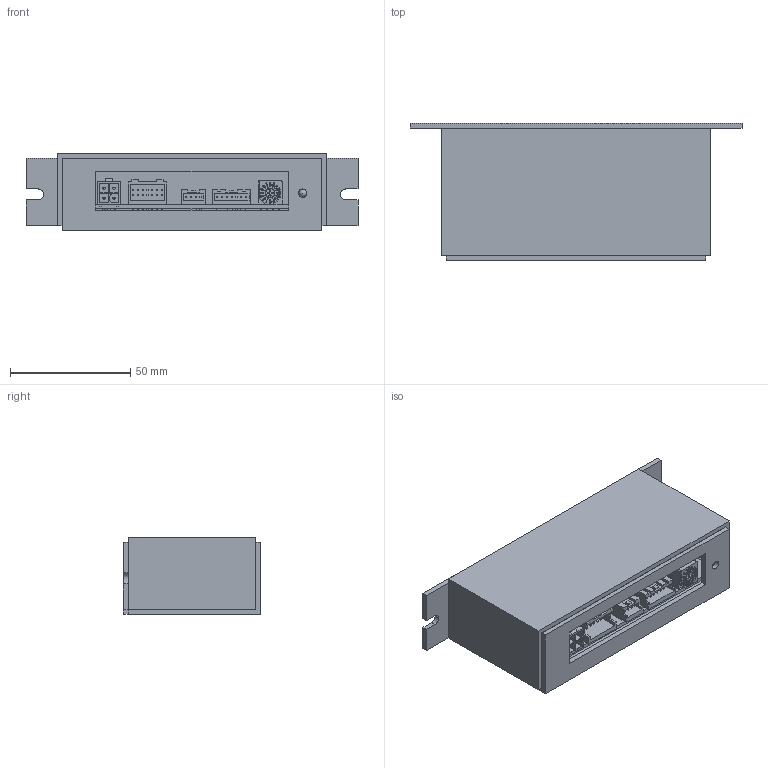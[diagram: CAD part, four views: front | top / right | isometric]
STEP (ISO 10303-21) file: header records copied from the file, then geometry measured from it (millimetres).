
FILE_DESCRIPTION(('FreeCAD Model'),'2;1');
FILE_NAME('Open CASCADE Shape Model','2023-07-28T13:43:09',('Author'),( ''),'Open CASCADE STEP processor 7.5','FreeCAD','Unknown');
FILE_SCHEMA(('AUTOMOTIVE_DESIGN { 1 0 10303 214 1 1 1 1 }'));
Length unit declared in the file: millimetre
Products named in the file (13): SCN3_AMP; Body; Body001; 基板; C-1-770968-0; S14B-PADSS-1; S04B-PASK-2; S07B-PASK-2; S-1011A; Without knob-Dial; S-1011A_body; Body003; Body004
Assembly tree (12 placements, depth 3):
  SCN3_AMP
    Body
    Body001
    基板
    C-1-770968-0
    S14B-PADSS-1
    S04B-PASK-2
    S07B-PASK-2
    S-1011A
      Without knob-Dial
      S-1011A_body
    Body003
    Body004
Bounding box: 138 x 57 x 32 mm (x, y, z)
Volume: 53703.4 mm3; surface area: 61293.4 mm2
Topology: 11 solids, 11 shells, 1098 faces, 2870 edges, 1904 vertices
Faces by surface type: plane 842, cylinder 238, torus 14, cone 3, sphere 1
Full cylindrical faces by diameter (mm): 0.5 x3, 3 x4, 3.1 x1, 3.5 x5, 3.8 x1, 4 x1
Entity records: 79905 total; most frequent: CARTESIAN_POINT 16084, DIRECTION 11089, LINE 7558, VECTOR 7558, ORIENTED_EDGE 5738, PCURVE 5738, DEFINITIONAL_REPRESENTATION 5738, EDGE_CURVE 2869
